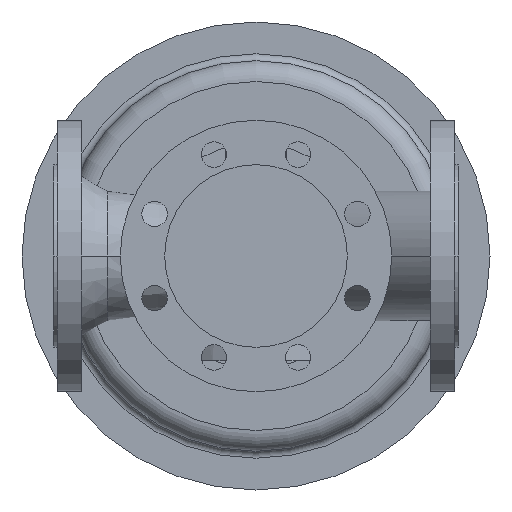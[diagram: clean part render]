
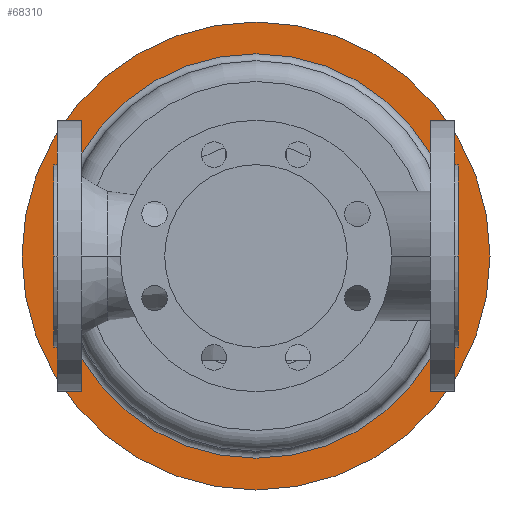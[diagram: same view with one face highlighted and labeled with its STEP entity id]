
A CAD part, front view. The second image highlights one B-rep face of the part: STEP entity #68310.
In plain terms, the highlighted planar face has unit normal (0, -1, 0).
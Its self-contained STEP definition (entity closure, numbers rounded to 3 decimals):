
#55880=CARTESIAN_POINT('',(377.5,849.7,0.));
#55890=VERTEX_POINT('',#55880);
#55920=CARTESIAN_POINT('',(175.,849.7,0.));
#55930=DIRECTION('',(0.,1.,0.));
#55940=DIRECTION('',(1.,0.,0.));
#55950=AXIS2_PLACEMENT_3D('',#55920,#55930,#55940);
#55960=CIRCLE('',#55950,202.5);
#55970=CARTESIAN_POINT('',(-27.5,849.7,0.));
#55980=VERTEX_POINT('',#55970);
#55990=EDGE_CURVE('',#55980,#55890,#55960,.T.);
#56310=CARTESIAN_POINT('',(350.,849.7,0.));
#56320=VERTEX_POINT('',#56310);
#56490=CARTESIAN_POINT('',(0.,849.7,
0.));
#56500=VERTEX_POINT('',#56490);
#56530=CARTESIAN_POINT('',(175.,849.7,0.));
#56540=DIRECTION('',(0.,1.,0.));
#56550=DIRECTION('',(1.,0.,0.));
#56560=AXIS2_PLACEMENT_3D('',#56530,#56540,#56550);
#56570=CIRCLE('',#56560,175.);
#56580=EDGE_CURVE('',#56500,#56320,#56570,.T.);
#68160=CARTESIAN_POINT('',(363.75,849.7,0.));
#68170=DIRECTION('',(0.,-1.,0.));
#68180=DIRECTION('',(-1.,0.,0.));
#68190=AXIS2_PLACEMENT_3D('',#68160,#68170,#68180);
#68200=PLANE('',#68190);
#68210=ORIENTED_EDGE('',*,*,#55990,.F.);
#68220=EDGE_CURVE('',#55890,#55980,#55960,.T.);
#68230=ORIENTED_EDGE('',*,*,#68220,.F.);
#68240=EDGE_LOOP('',(#68230,#68210));
#68250=FACE_OUTER_BOUND('',#68240,.T.);
#68260=EDGE_CURVE('',#56320,#56500,#56570,.T.);
#68270=ORIENTED_EDGE('',*,*,#68260,.T.);
#68280=ORIENTED_EDGE('',*,*,#56580,.T.);
#68290=EDGE_LOOP('',(#68280,#68270));
#68300=FACE_BOUND('',#68290,.T.);
#68310=ADVANCED_FACE('',(#68250,#68300),#68200,.T.);
